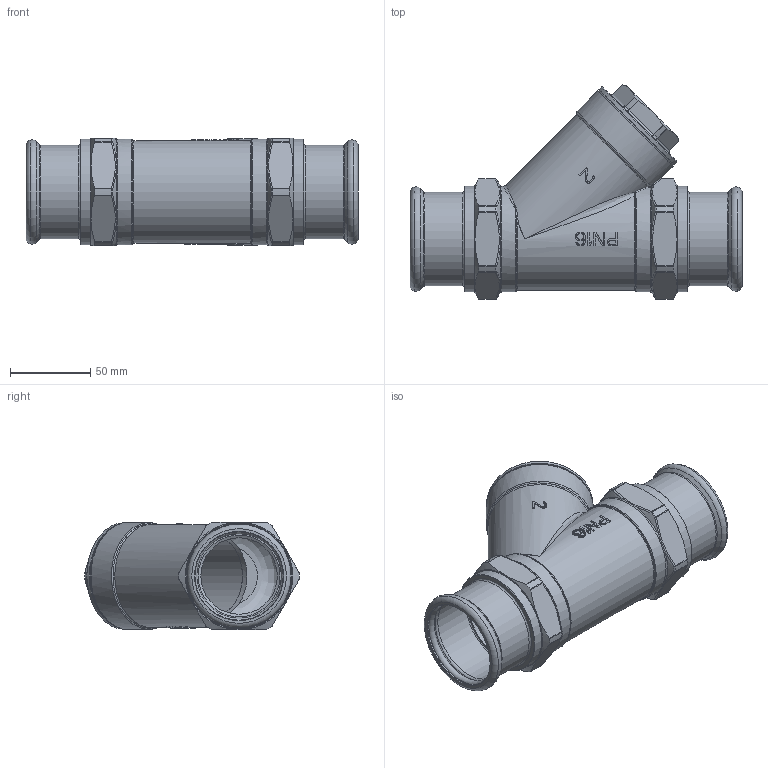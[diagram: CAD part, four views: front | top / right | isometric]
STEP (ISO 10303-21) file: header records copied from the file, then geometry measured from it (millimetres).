
FILE_DESCRIPTION((''),'2;1');
FILE_NAME('P:\Fastrack\53972_CRANE 3D\Press Fit\FIG_817-PF\Fig817-PF_54MM\Fig817-PF_54MM.stp','2012-02-08T15:22:16',('dcole'),(''),'Autodesk Inventor 2008','Autodesk Inventor 2008','');
FILE_SCHEMA(('AUTOMOTIVE_DESIGN { 1 0 10303 214 1 1 1 1 }'));
Length unit declared in the file: millimetre
Products named in the file (1): Fig817-PF_54MM
Bounding box: 207 x 133.68 x 67 mm (x, y, z)
Volume: 234970.3 mm3; surface area: 140881.6 mm2
Topology: 1 solids, 2 shells, 537 faces, 1330 edges, 808 vertices
Faces by surface type: bspline 189, plane 123, cylinder 101, cone 53, torus 47, sphere 24
Full cylindrical faces by diameter (mm): 40.5 x1, 49 x1, 50.4 x1, 51 x1, 51.2 x1, 52 x1, 54.35 x2, 55 x2, 56.65 x2, 57 x1, 58 x1, 58.4 x2, 60 x1, 60.2 x2, 60.5 x1, 65.5 x1, 65.8 x2, 66 x1, 66.5 x2
Entity records: 25361 total; most frequent: CARTESIAN_POINT 13338, ORIENTED_EDGE 2460, DIRECTION 2206, EDGE_CURVE 1230, AXIS2_PLACEMENT_3D 932, VERTEX_POINT 793, EDGE_LOOP 637, CIRCLE 583
